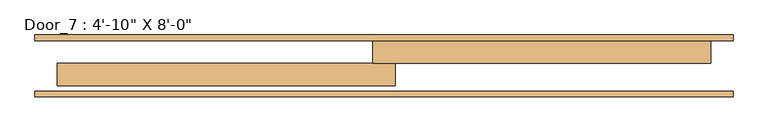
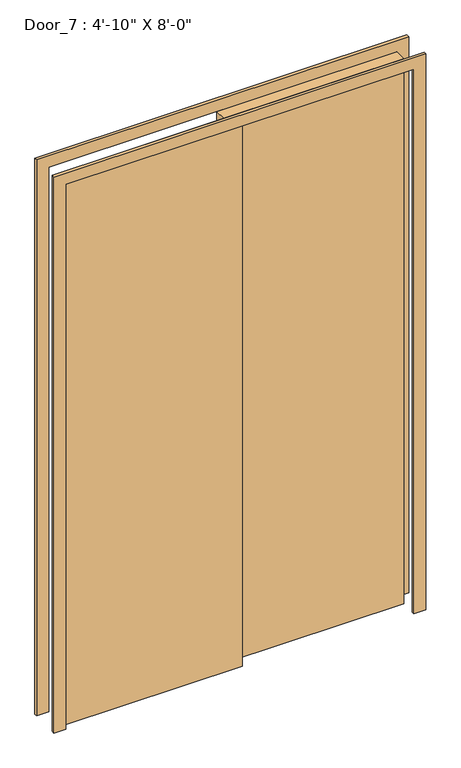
"""IFC4 building model written with IfcOpenShell, lengths in millimetres: door geometry."""

from ifc_helpers import new_model, si_unit, frame, origin, origin_with_axes, place, context, project, spatial, polyline, outline, extrude, source, transform, mapped, element, save


def door_72025155(model_context):
    return source(origin(), model_context, "Body", "SweptSolid", [
        extrude(outline(polyline([(2438.4, 736.6), (0.0, 736.6), (0.0, 787.4), (2489.2, 787.4), (2489.2, -787.4), (0.0, -787.4), (0.0, -736.6), (2438.4, -736.6), (2438.4, 736.6)])), frame((0.0, -196.85, 0.0), z_axis=(0.0, 1.0, 0.0), x_axis=(0.0, 0.0, 1.0)), (0.0, 0.0, 1.0), 12.7),
        extrude(outline(polyline([(0.0, 736.6), (0.0, 787.4), (2489.2, 787.4), (2489.2, -787.4), (0.0, -787.4), (0.0, -736.6), (2438.4, -736.6), (2438.4, 736.6), (0.0, 736.6)])), frame((0.0, -69.85, 0.0), z_axis=(0.0, 1.0, 0.0), x_axis=(0.0, 0.0, 1.0)), (0.0, 0.0, 1.0), 12.7),
        extrude(outline(polyline([(-25.4, -120.65), (-25.4, -69.85), (736.6, -69.85), (736.6, -120.65), (-25.4, -120.65)])), origin_with_axes(), (0.0, 0.0, 1.0), 2438.4),
        extrude(outline(polyline([(-736.6, -171.45), (-736.6, -120.65), (25.4, -120.65), (25.4, -171.45), (-736.6, -171.45)])), origin_with_axes(), (0.0, 0.0, 1.0), 2438.4),
    ])


if __name__ == "__main__":
    model = new_model("IFC4")
    model_context = context("Model", 3, world=origin())
    ifc_project = project(units=[si_unit("LENGTHUNIT", "METRE", prefix="MILLI")], contexts=[model_context])
    site = spatial("IfcSite", under=ifc_project)
    building = spatial("IfcBuilding", under=site)
    placement = place(None, origin())
    door_shape = door_72025155(model_context)
    element("IfcDoor", 1, ObjectType="Door_7 : 4'-10\" X 8'-0\"", at=placement, inside=building, context=model_context, shape_type="MappedRepresentation", body=[
        mapped(door_shape, transform((0.0, 0.0, 0.0), x_axis=(1.0, 0.0, 0.0), y_axis=(0.0, 1.0, 0.0), z_axis=(0.0, 0.0, 1.0))),
    ])
    save(model, "model.ifc")
